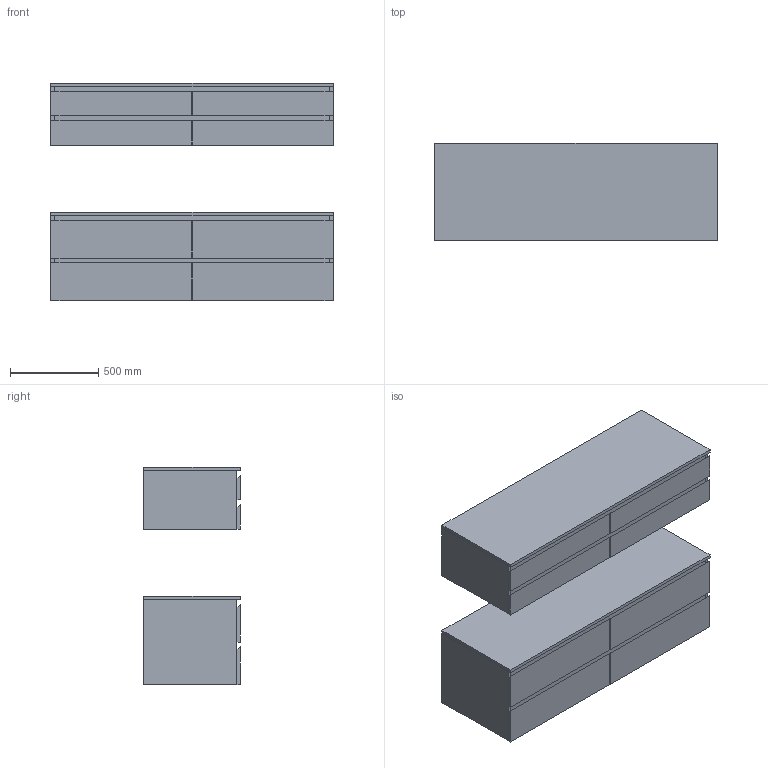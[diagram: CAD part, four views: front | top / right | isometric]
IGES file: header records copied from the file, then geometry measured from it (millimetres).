
Global section: file name: \\Archi-NAS\Comune\X GIOVANNI\MOBILI\EMOTION\EMOTION_8.igs; native system: Rhinoceros ( Feb 23 2021 ); preprocessor: Trout Lake IGES 012 Feb 23 2021; date: 230608.072007; units: millimetre
Bounding box: 1600 x 550 x 1231.73 mm (x, y, z)
Surface area: 22917373.9 mm2 (no closed solid volume)
Topology: 0 solids, 0 shells, 376 faces, 1528 edges, 1528 vertices
Faces by surface type: bspline 376
